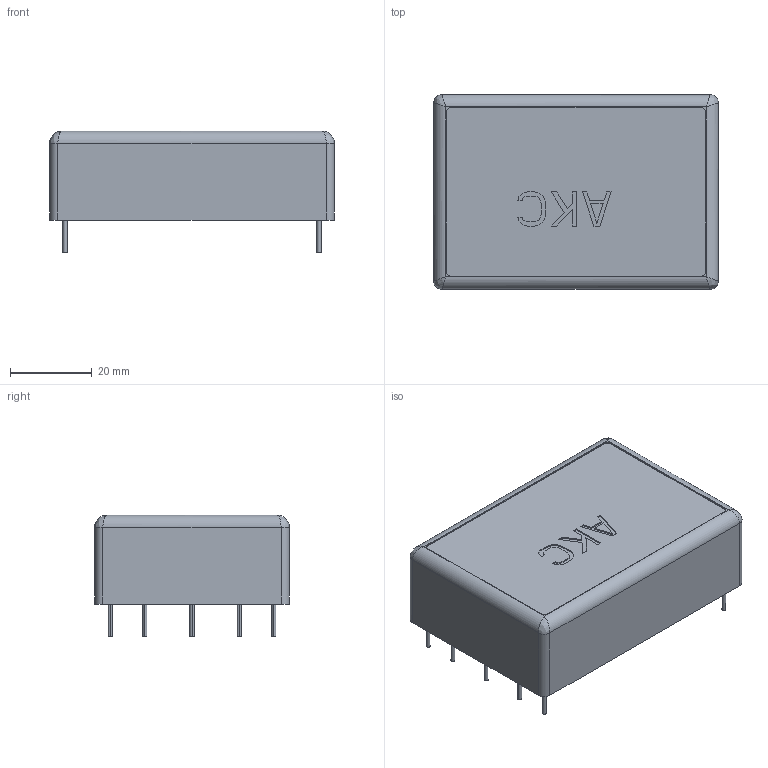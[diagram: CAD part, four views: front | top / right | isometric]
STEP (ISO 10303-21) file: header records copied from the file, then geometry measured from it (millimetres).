
FILE_DESCRIPTION((''),'2;1');
FILE_NAME('AKC','2016-02-02T',('arch'),(''),'PRO/ENGINEER BY PARAMETRIC TECHNOLOGY CORPORATION, 2008380','PRO/ENGINEER BY PARAMETRIC TECHNOLOGY CORPORATION, 2008380','');
FILE_SCHEMA(('AUTOMOTIVE_DESIGN { 1 2 10303 214 0 1 1 1 }'));
Length unit declared in the file: millimetre
Products named in the file (1): AKC
Bounding box: 69.5 x 47.5 x 29.7 mm (x, y, z)
Volume: 70376.8 mm3; surface area: 11597.5 mm2
Topology: 1 solids, 1 shells, 118 faces, 297 edges, 194 vertices
Faces by surface type: plane 86, cylinder 28, bspline 4
Entity records: 3803 total; most frequent: CARTESIAN_POINT 886, ORIENTED_EDGE 594, DIRECTION 557, EDGE_CURVE 297, VECTOR 241, LINE 241, VERTEX_POINT 194, AXIS2_PLACEMENT_3D 158
